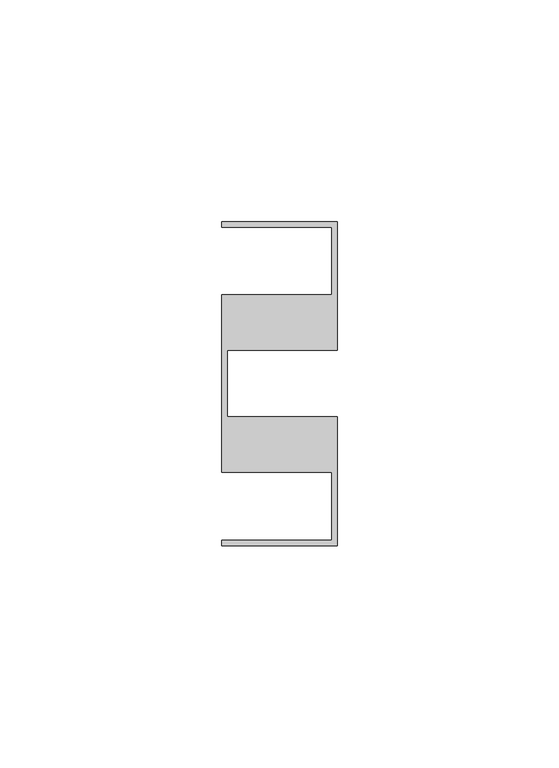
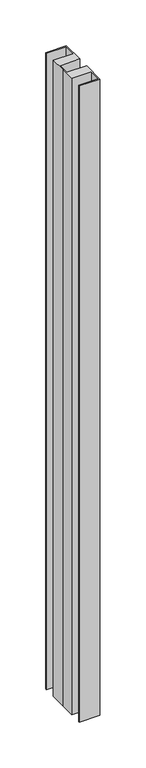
"""IFC4 building model written with IfcOpenShell, lengths in millimetres: member geometry, Прямоугольный импост : 10-AMG-2-Профиль 26Х73 Верх П."""

import ifcopenshell
import ifcopenshell.guid

model = None  # the IFC model being written
_history = None  # IfcOwnerHistory: only IFC2X3 demands one
_inside = {}  # id of a spatial element -> (the spatial element, [elements in it])
_under = {}  # id of a project, library or spatial element -> (it, [spatial elements below it])
_declared = {}  # id of a project -> (the project, [libraries it declares])
_typed = {}  # id of a type object -> (the type object, [elements of that type])
_made_of = {}  # id of a material, layer set ... -> (it, [elements and type objects made of it])


def new_model(schema):
    """Start an empty IFC model of exactly this schema.

    Asked for "IFC4X3", IfcOpenShell would pick the latest addendum, in which some entities
    have other attributes; the version numbers below select the first issue.
    IFC2X3 requires an IfcOwnerHistory on every rooted entity: one is made here for all.
    """
    global model, _history
    if schema == "IFC4X3":
        model = ifcopenshell.file(schema_version=(4, 3, 0, 0))
    else:
        model = ifcopenshell.file(schema=schema)
    _inside.clear()
    _under.clear()
    _declared.clear()
    _typed.clear()
    _made_of.clear()
    _history = None
    if model.schema == "IFC2X3":
        org = make("IfcOrganization", Name="unknown")
        user = make(
            "IfcPersonAndOrganization",
            ThePerson=make("IfcPerson", FamilyName="unknown"),
            TheOrganization=org,
        )
        app = make(
            "IfcApplication",
            ApplicationDeveloper=org,
            Version="unknown",
            ApplicationFullName="unknown",
            ApplicationIdentifier="unknown",
        )
        _history = make(
            "IfcOwnerHistory",
            OwningUser=user,
            OwningApplication=app,
            ChangeAction="ADDED",
            CreationDate=0,
        )
    return model


def make(cls, **values):
    """One entity of the class cls with the attributes given. An attribute that is None is left unset."""
    return model.create_entity(
        cls, **{name: value for name, value in values.items() if value is not None}
    )


def rooted(cls, **values):
    """An entity with a GlobalId (a new one), such as an element, a storey or a relation."""
    return make(cls, GlobalId=ifcopenshell.guid.new(), OwnerHistory=_history, **values)


def si_unit(unit_type, name, prefix=None):
    """IfcSIUnit, for example si_unit("LENGTHUNIT", "METRE", prefix="MILLI")."""
    return make("IfcSIUnit", UnitType=unit_type, Prefix=prefix, Name=name)


def assignment(units):
    """IfcUnitAssignment: the units of a project."""
    return None if units is None else make("IfcUnitAssignment", Units=units)


def point(xyz):
    """IfcCartesianPoint."""
    return None if xyz is None else make("IfcCartesianPoint", Coordinates=xyz)


def direction(xyz):
    """IfcDirection."""
    return None if xyz is None else make("IfcDirection", DirectionRatios=xyz)


def frame(location, z_axis=None, x_axis=None):
    """IfcAxis2Placement3D, a coordinate frame: its origin and axes. An axis left out is left unset."""
    return make(
        "IfcAxis2Placement3D",
        Location=point(location),
        Axis=direction(z_axis),
        RefDirection=direction(x_axis),
    )


def origin():
    """The frame at (0, 0, 0) with its axes left unset."""
    return frame((0.0, 0.0, 0.0))


def place(relative_to, where):
    """IfcLocalPlacement: puts the frame where relative to a parent placement (None: the world)."""
    return make(
        "IfcLocalPlacement", PlacementRelTo=relative_to, RelativePlacement=where
    )


def context(
    kind, dimensions, precision=None, world=None, true_north=None, identifier=None
):
    """IfcGeometricRepresentationContext, for example the 3D "Model" context."""
    return make(
        "IfcGeometricRepresentationContext",
        ContextIdentifier=identifier,
        ContextType=kind,
        CoordinateSpaceDimension=dimensions,
        Precision=precision,
        WorldCoordinateSystem=world,
        TrueNorth=true_north,
    )


def project(units=None, contexts=None):
    """IfcProject with its units and contexts."""
    return rooted(
        "IfcProject",
        Name="project",
        RepresentationContexts=contexts,
        UnitsInContext=assignment(units),
    )


def spatial(cls, under=None, at=None, **own):
    """A site, building, storey or space (cls), placed at a placement, below another one or the project."""
    s = rooted(cls, ObjectPlacement=at, **own)
    if under is not None:
        _under.setdefault(under.id(), (under, []))[1].append(s)
    return s


def polyline(points):
    """IfcPolyline through the points."""
    return make("IfcPolyline", Points=[point(p) for p in points])


def outline(outer, holes=None, kind="AREA"):
    """IfcArbitraryClosedProfileDef: a profile drawn as a closed curve; with holes, ...WithVoids."""
    if holes is None:
        return make("IfcArbitraryClosedProfileDef", ProfileType=kind, OuterCurve=outer)
    return make(
        "IfcArbitraryProfileDefWithVoids",
        ProfileType=kind,
        OuterCurve=outer,
        InnerCurves=holes,
    )


def extrude(swept, where, along, depth):
    """IfcExtrudedAreaSolid: the profile swept, set in the frame where, extruded along a direction by depth."""
    return make(
        "IfcExtrudedAreaSolid",
        SweptArea=swept,
        Position=where,
        ExtrudedDirection=direction(along),
        Depth=depth,
    )


def shape(context_of_items, identifier, shape_type, items):
    """IfcShapeRepresentation: the items that make up one representation, for example the "Body"."""
    return make(
        "IfcShapeRepresentation",
        ContextOfItems=context_of_items,
        RepresentationIdentifier=identifier,
        RepresentationType=shape_type,
        Items=items,
    )


def source(mapping_origin, context_of_items, identifier, shape_type, items):
    """IfcRepresentationMap: a shape defined once, which mapped items show again and again."""
    return make(
        "IfcRepresentationMap",
        MappingOrigin=mapping_origin,
        MappedRepresentation=shape(context_of_items, identifier, shape_type, items),
    )


def transform(
    local_origin,
    x_axis=None,
    y_axis=None,
    z_axis=None,
    scale=None,
    scale2=None,
    scale3=None,
    uniform=True,
):
    """IfcCartesianTransformationOperator3D, or its non-uniform kind. x_axis, y_axis, z_axis: its Axis1, 2, 3."""
    if uniform:
        return make(
            "IfcCartesianTransformationOperator3D",
            Axis1=direction(x_axis),
            Axis2=direction(y_axis),
            LocalOrigin=point(local_origin),
            Scale=scale,
            Axis3=direction(z_axis),
        )
    return make(
        "IfcCartesianTransformationOperator3DnonUniform",
        Axis1=direction(x_axis),
        Axis2=direction(y_axis),
        LocalOrigin=point(local_origin),
        Scale=scale,
        Axis3=direction(z_axis),
        Scale2=scale2,
        Scale3=scale3,
    )


def mapped(mapping_source, mapping_target):
    """IfcMappedItem: shows the shape of a source again, moved by a transform."""
    return make(
        "IfcMappedItem", MappingSource=mapping_source, MappingTarget=mapping_target
    )


def made_of(thing, what):
    """Note that an element or type object is made of a material, layer set ...; save() writes the relation."""
    if what is not None:
        _made_of.setdefault(what.id(), (what, []))[1].append(thing)
    return thing


def element(
    cls,
    number,
    at=None,
    inside=None,
    cuts=None,
    type_object=None,
    material=None,
    context=None,
    identifier="Body",
    shape_type=None,
    held_by="IfcProductDefinitionShape",
    body=None,
    shapes=None,
    **own,
):
    """One element of the class cls, such as IfcWall. Its Tag is "e" and its number.

    at: its placement. inside: the storey or other place that contains it. cuts: it is an
    opening in that element (IfcRelVoidsElement). A single representation is given by context,
    identifier, shape_type and body (its items); several are given by shapes. held_by: the class
    of the entity that holds the representations. save() writes the other relations.
    """
    e = rooted(cls, Tag="e%d" % number, ObjectPlacement=at, **own)
    if body is not None:
        shapes = [shape(context, identifier, shape_type, body)]
    if shapes is not None:
        e.Representation = make(held_by, Representations=shapes)
    if inside is not None:
        _inside.setdefault(inside.id(), (inside, []))[1].append(e)
    if cuts is not None:
        rooted(
            "IfcRelVoidsElement", RelatingBuildingElement=cuts, RelatedOpeningElement=e
        )
    if type_object is not None:
        _typed.setdefault(type_object.id(), (type_object, []))[1].append(e)
    return made_of(e, material)


def aggregate(whole, parts):
    """IfcRelAggregates: a whole, such as a stair, and the parts it consists of."""
    return rooted("IfcRelAggregates", RelatingObject=whole, RelatedObjects=parts)


def save(model, path):
    """Write the relations noted so far, then the file.

    IfcRelAggregates (storeys below a building ...), IfcRelContainedInSpatialStructure (elements
    in a storey), IfcRelDefinesByType, IfcRelAssociatesMaterial and IfcRelDeclares: one each for
    every whole, place, type object, material and project.
    """
    for whole, parts in _under.values():
        aggregate(whole, parts)
    for where, things in _inside.values():
        rooted(
            "IfcRelContainedInSpatialStructure",
            RelatedElements=things,
            RelatingStructure=where,
        )
    for kind, things in _typed.values():
        rooted("IfcRelDefinesByType", RelatedObjects=things, RelatingType=kind)
    for what, things in _made_of.values():
        rooted("IfcRelAssociatesMaterial", RelatedObjects=things, RelatingMaterial=what)
    for by, libraries in _declared.values():
        rooted("IfcRelDeclares", RelatingContext=by, RelatedDefinitions=libraries)
    model.write(path)


def member_355e974f(model_context):
    return source(origin(), model_context, "Body", "SweptSolid", [
        extrude(outline(polyline([(-26.0, 36.5), (0.0, 36.5), (0.0, 7.5116043), (-24.8, 7.5116043), (-24.8, 0.0), (-24.8, -7.5116043), (0.0, -7.5116043), (0.0, -36.5), (-26.0, -36.5), (-26.0, -35.3116043), (-1.2, -35.3116043), (-1.2, -20.0), (-26.0, -20.0), (-26.0, 0.0), (-26.0, 20.0), (-1.2, 20.0), (-1.2, 35.3), (-26.0, 35.3), (-26.0, 36.5)])), frame((0.0, 0.0, -848.0), z_axis=(0.0, 0.0, 1.0), x_axis=(1.0, 0.0, 0.0)), (0.0, 0.0, 1.0), 848.0),
    ])


if __name__ == "__main__":
    model = new_model("IFC4")
    model_context = context("Model", 3, world=origin())
    ifc_project = project(units=[si_unit("LENGTHUNIT", "METRE", prefix="MILLI")], contexts=[model_context])
    site = spatial("IfcSite", under=ifc_project)
    building = spatial("IfcBuilding", under=site)
    placement = place(None, origin())
    member_shape = member_355e974f(model_context)
    element("IfcMember", 1, ObjectType="Прямоугольный импост : 10-AMG-2-Профиль 26Х73 Верх П", at=placement, inside=building, context=model_context, shape_type="MappedRepresentation", body=[
        mapped(member_shape, transform((0.0, 0.0, 0.0), x_axis=(1.0, 0.0, 0.0), y_axis=(0.0, 1.0, 0.0), z_axis=(0.0, 0.0, 1.0))),
    ])
    save(model, "model.ifc")
